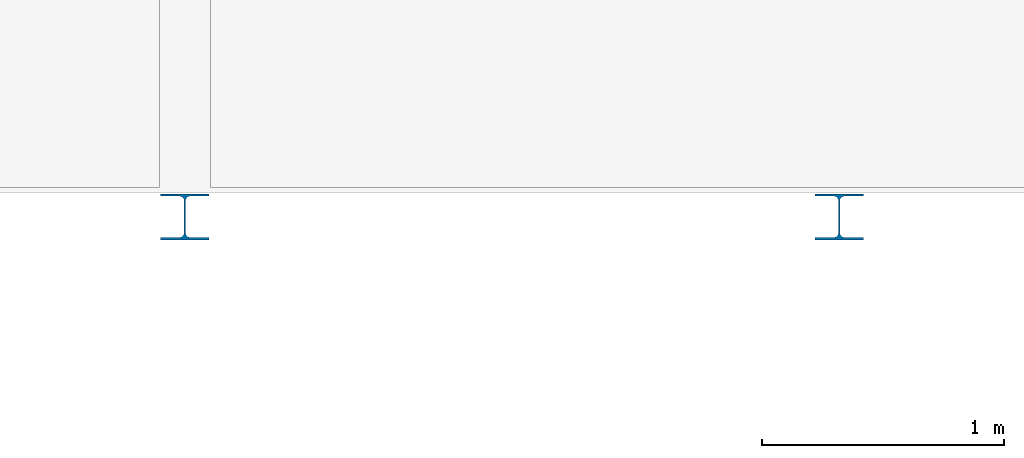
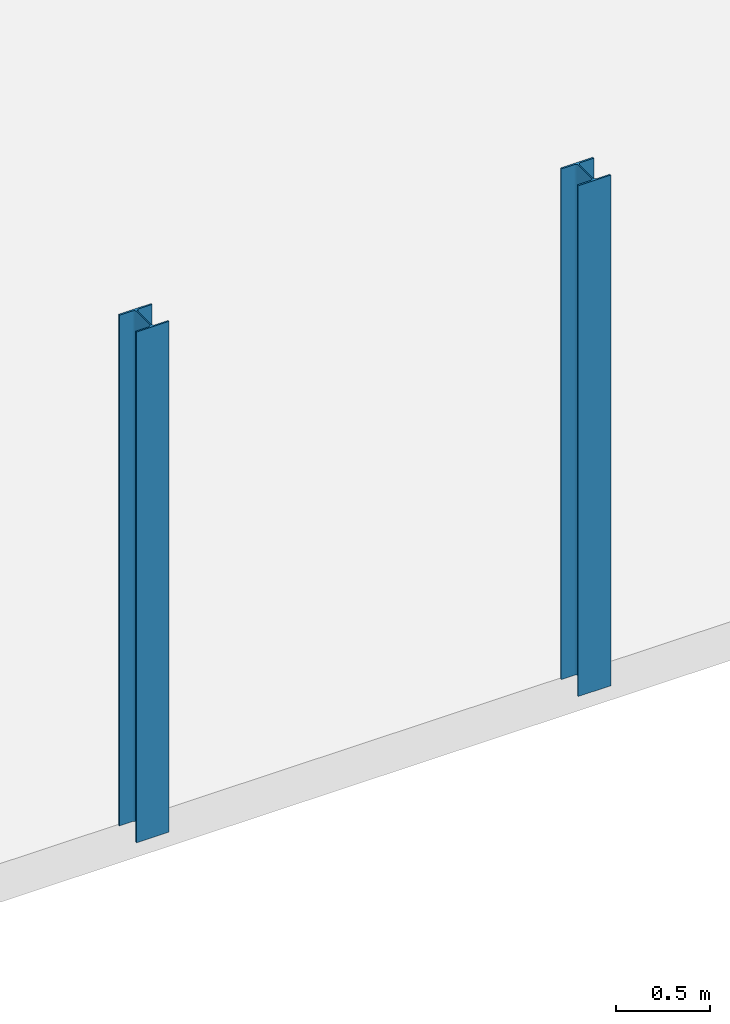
# One storey, part 3 of 22: 2 columns.
"""IFC2X3 building model written with IfcOpenShell, lengths in millimetres."""

from ifc_helpers import new_model, entity, si_unit, converted_unit, derived_unit, direction, frame, frame_2d, origin, place, context, subcontext, project, spatial, polyline, circle_curve, parameter, trimmed, segment, composite_curve, outline, extrude, source, transform, mapped, material, type_object, type_shapes, element, save


model = new_model("IFC2X3")

# Units and contexts
model_context = context("Model", 3, precision=0.01, world=origin(), true_north=direction((6.12303176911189e-17, 1.0)))
body_context = subcontext(model_context, "Body", "Model", "MODEL_VIEW")
ifc_project = project(units=[si_unit("LENGTHUNIT", "METRE", prefix="MILLI"), si_unit("AREAUNIT", "SQUARE_METRE"), si_unit("VOLUMEUNIT", "CUBIC_METRE"), converted_unit("PLANEANGLEUNIT", "DEGREE", entity("IfcRatioMeasure", 0.0174532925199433), si_unit("PLANEANGLEUNIT", "RADIAN"), dimensions=[0, 0, 0, 0, 0, 0, 0]), si_unit("MASSUNIT", "GRAM", prefix="KILO"), derived_unit("MASSDENSITYUNIT", [(si_unit("MASSUNIT", "GRAM", prefix="KILO"), 1), (si_unit("LENGTHUNIT", "METRE"), -3)]), si_unit("TIMEUNIT", "SECOND"), si_unit("FREQUENCYUNIT", "HERTZ"), si_unit("THERMODYNAMICTEMPERATUREUNIT", "DEGREE_CELSIUS"), derived_unit("THERMALTRANSMITTANCEUNIT", [(si_unit("MASSUNIT", "GRAM", prefix="KILO"), 1), (si_unit("THERMODYNAMICTEMPERATUREUNIT", "KELVIN"), -1), (si_unit("TIMEUNIT", "SECOND"), -3)]), derived_unit("VOLUMETRICFLOWRATEUNIT", [(si_unit("LENGTHUNIT", "METRE"), 3), (si_unit("TIMEUNIT", "SECOND"), -1)]), si_unit("ELECTRICCURRENTUNIT", "AMPERE"), si_unit("ELECTRICVOLTAGEUNIT", "VOLT"), si_unit("POWERUNIT", "WATT"), si_unit("FORCEUNIT", "NEWTON", prefix="KILO"), si_unit("ILLUMINANCEUNIT", "LUX"), si_unit("LUMINOUSFLUXUNIT", "LUMEN"), si_unit("LUMINOUSINTENSITYUNIT", "CANDELA"), derived_unit("USERDEFINED", [(si_unit("MASSUNIT", "GRAM", prefix="KILO"), -1), (si_unit("LENGTHUNIT", "METRE"), -2), (si_unit("TIMEUNIT", "SECOND"), 3), (si_unit("LUMINOUSFLUXUNIT", "LUMEN"), 1)]), derived_unit("LINEARVELOCITYUNIT", [(si_unit("LENGTHUNIT", "METRE"), 1), (si_unit("TIMEUNIT", "SECOND"), -1)]), si_unit("PRESSUREUNIT", "PASCAL"), derived_unit("USERDEFINED", [(si_unit("LENGTHUNIT", "METRE"), -2), (si_unit("MASSUNIT", "GRAM", prefix="KILO"), 1), (si_unit("TIMEUNIT", "SECOND"), -2)])], contexts=[model_context])

# Site, building, storey
site_placement = place(None, origin())
site = spatial("IfcSite", under=ifc_project, at=site_placement, Name="Default", CompositionType="ELEMENT")
building_placement = place(site_placement, origin())
building = spatial("IfcBuilding", under=site, at=building_placement, Name="niet gebruiken", CompositionType="ELEMENT")
storey_placement = place(building_placement, frame((0.0, 0.0, 9630.0)))
storey = spatial("IfcBuildingStorey", under=building, at=storey_placement, Name="03 derde verdieping", CompositionType="ELEMENT", Elevation=9630.00000000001)

# Columns
ifc_material = material(Name="NLRS_h2_staal")
column_type = type_object("IfcColumnType", Name="kolom HEA 200", PredefinedType="COLUMN", material=ifc_material)
shared_shape = source(origin(), body_context, "Body", "SweptSolid", [
    extrude(outline(composite_curve([segment(polyline([(85.0, -100.0), (95.0, -100.0)]), True, "CONTINUOUS"), segment(polyline([(95.0, -100.0), (95.0, 100.0)]), True, "CONTINUOUS"), segment(polyline([(95.0, 100.0), (85.0, 100.0)]), True, "CONTINUOUS"), segment(polyline([(85.0, 100.0), (85.0, 21.2499999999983)]), True, "CONTINUOUS"), segment(trimmed(circle_curve(frame_2d((67.0, 21.2499999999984), x_axis=(1.0, 0.0)), 18.0), [parameter(270.0)], [parameter(0.0)], True, "PARAMETER"), False, "CONTINUOUS"), segment(polyline([(67.0, 3.24999999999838), (-67.0, 3.24999999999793)]), True, "CONTINUOUS"), segment(trimmed(circle_curve(frame_2d((-67.0, 21.2499999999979), x_axis=(0.0, -1.0)), 18.0), [parameter(270.0)], [parameter(0.0)], True, "PARAMETER"), False, "CONTINUOUS"), segment(polyline([(-85.0, 21.2499999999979), (-85.0, 100.0)]), True, "CONTINUOUS"), segment(polyline([(-85.0, 100.0), (-95.0, 100.0)]), True, "CONTINUOUS"), segment(polyline([(-95.0, 100.0), (-95.0, -100.0)]), True, "CONTINUOUS"), segment(polyline([(-95.0, -100.0), (-85.0, -100.0)]), True, "CONTINUOUS"), segment(polyline([(-85.0, -100.0), (-85.0, -21.250000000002)]), True, "CONTINUOUS"), segment(trimmed(circle_curve(frame_2d((-67.0, -21.2500000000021), x_axis=(-1.0, 0.0)), 18.0), [parameter(270.0)], [parameter(0.0)], True, "PARAMETER"), False, "CONTINUOUS"), segment(polyline([(-67.0, -3.25000000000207), (67.0, -3.25000000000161)]), True, "CONTINUOUS"), segment(trimmed(circle_curve(frame_2d((67.0, -21.2500000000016), x_axis=(0.0, 1.0)), 18.0), [parameter(270.0)], [parameter(0.0)], True, "PARAMETER"), False, "CONTINUOUS"), segment(polyline([(85.0, -21.2500000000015), (85.0, -100.0)]), True, "CONTINUOUS")], self_intersect=False)), frame((0.0, 0.0, 9540.0), z_axis=(0.0, 0.0, 1.0), x_axis=(0.0, -1.0, 0.0)), (0.0, 0.0, 1.0), 3300.0),
])
type_shapes(column_type, [shared_shape])
for number, where, name in (
    (1, (54000.0, 300.0, -9630.0), "NLRS_28.11_SCO_TLB_stalen kolom HEA_gen:kolom HEA 200"),
    (2, (56700.0, 300.0, -9630.0), "NLRS_28.11_SCO_TLB_stalen kolom HEA_gen:kolom HEA 200"),
):
    element("IfcColumn", number, at=place(storey_placement, frame(where)), inside=storey, type_object=column_type, material=ifc_material, Name=name, ObjectType="kolom HEA 200", context=body_context, shape_type="MappedRepresentation", body=[
        mapped(shared_shape, transform((0.0, 0.0, 0.0), scale=1.0)),
    ])

save(model, "model.ifc")
